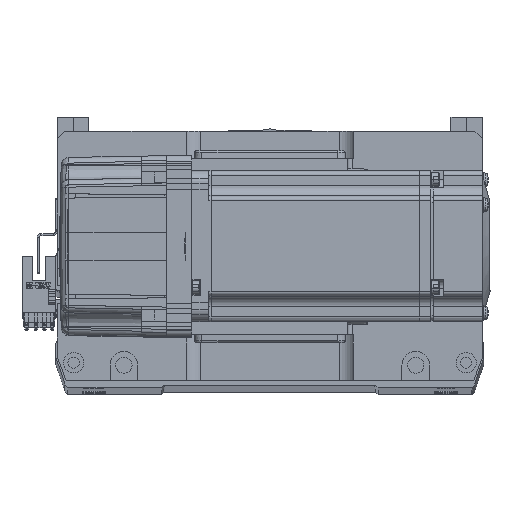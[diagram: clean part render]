
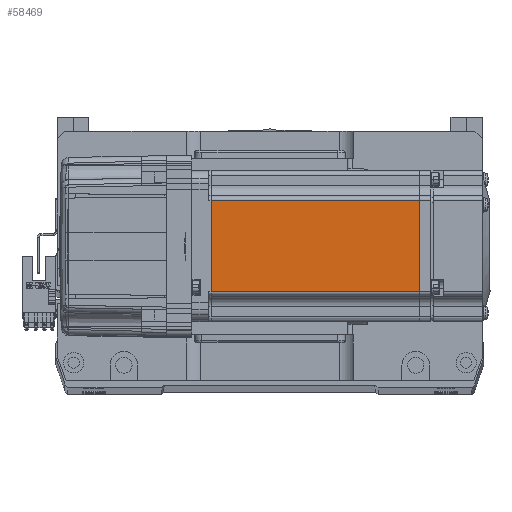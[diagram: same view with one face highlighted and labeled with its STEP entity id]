
A CAD part, top view. The second image highlights one B-rep face of the part: STEP entity #58469.
In plain terms, the highlighted planar face has unit normal (0, 0, 1) as drawn and (0, -1, 0) by its records, which use the part's own axes.
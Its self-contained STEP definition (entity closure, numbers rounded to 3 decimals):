
#249 = VERTEX_POINT ( 'NONE', #38462 ) ;
#3581 = DIRECTION ( 'NONE',  ( 0., 0., -1. ) ) ;
#3637 = VECTOR ( 'NONE', #53953, 1000. ) ;
#5522 = VECTOR ( 'NONE', #27514, 1000. ) ;
#6011 = ORIENTED_EDGE ( 'NONE', *, *, #12723, .T. ) ;
#6698 = LINE ( 'NONE', #13163, #9007 ) ;
#7118 = LINE ( 'NONE', #62571, #5522 ) ;
#7811 = VECTOR ( 'NONE', #32460, 1000. ) ;
#9007 = VECTOR ( 'NONE', #18262, 1000. ) ;
#10140 = LINE ( 'NONE', #12847, #7811 ) ;
#12723 = EDGE_CURVE ( 'NONE', #33830, #48500, #10140, .T. ) ;
#12847 = CARTESIAN_POINT ( 'NONE',  ( -6.5, -30., -18. ) ) ;
#13163 = CARTESIAN_POINT ( 'NONE',  ( -7.75, -30., -25. ) ) ;
#13489 = DIRECTION ( 'NONE',  ( 0., -1., 0. ) ) ;
#16312 = FACE_OUTER_BOUND ( 'NONE', #61764, .T. ) ;
#18262 = DIRECTION ( 'NONE',  ( 0., 0., 1. ) ) ;
#20261 = AXIS2_PLACEMENT_3D ( 'NONE', #28502, #13489, #3581 ) ;
#22830 = CARTESIAN_POINT ( 'NONE',  ( -90.45, -30., 18. ) ) ;
#25330 = ORIENTED_EDGE ( 'NONE', *, *, #52399, .T. ) ;
#27514 = DIRECTION ( 'NONE',  ( -1., 0., 0. ) ) ;
#28502 = CARTESIAN_POINT ( 'NONE',  ( -6.5, -30., -25. ) ) ;
#28942 = PLANE ( 'NONE',  #20261 ) ;
#32460 = DIRECTION ( 'NONE',  ( 1., 0., 0. ) ) ;
#33064 = CARTESIAN_POINT ( 'NONE',  ( -7.75, -30., -18. ) ) ;
#33830 = VERTEX_POINT ( 'NONE', #44143 ) ;
#38462 = CARTESIAN_POINT ( 'NONE',  ( -7.75, -30., 18. ) ) ;
#40368 = EDGE_CURVE ( 'NONE', #48500, #249, #6698, .T. ) ;
#44143 = CARTESIAN_POINT ( 'NONE',  ( -90.45, -30., -18. ) ) ;
#47990 = VERTEX_POINT ( 'NONE', #22830 ) ;
#48500 = VERTEX_POINT ( 'NONE', #33064 ) ;
#48953 = EDGE_CURVE ( 'NONE', #249, #47990, #7118, .T. ) ;
#49312 = CARTESIAN_POINT ( 'NONE',  ( -90.45, -30., -25. ) ) ;
#52399 = EDGE_CURVE ( 'NONE', #47990, #33830, #54915, .T. ) ;
#53953 = DIRECTION ( 'NONE',  ( 0., 0., -1. ) ) ;
#54915 = LINE ( 'NONE', #49312, #3637 ) ;
#58469 = ADVANCED_FACE ( 'NONE', ( #16312 ), #28942, .T. ) ;
#60019 = ORIENTED_EDGE ( 'NONE', *, *, #48953, .T. ) ;
#61743 = ORIENTED_EDGE ( 'NONE', *, *, #40368, .T. ) ;
#61764 = EDGE_LOOP ( 'NONE', ( #61743, #60019, #25330, #6011 ) ) ;
#62571 = CARTESIAN_POINT ( 'NONE',  ( -6.5, -30., 18. ) ) ;
